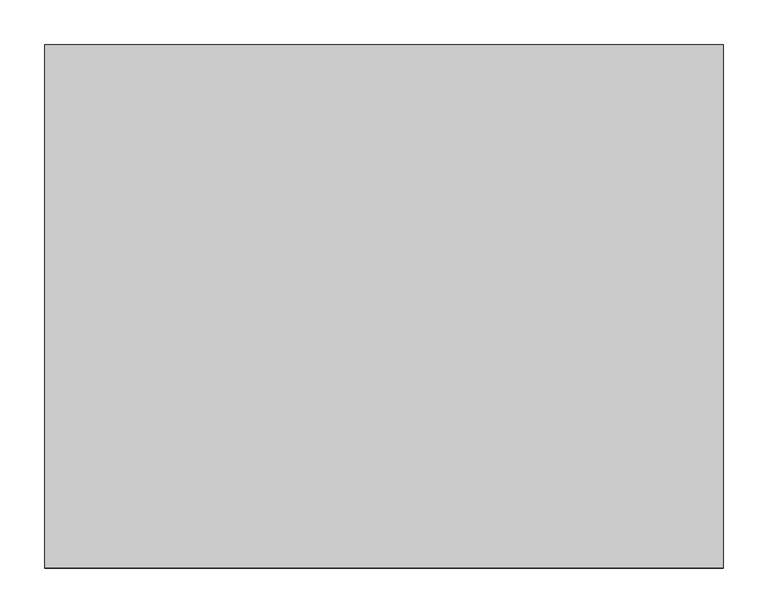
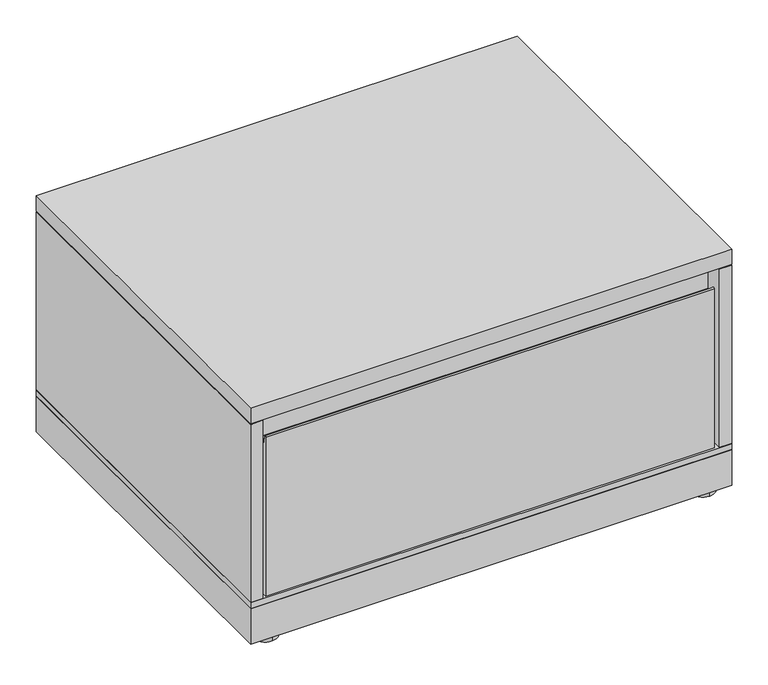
"""IFC4 building model written with IfcOpenShell, lengths in millimetres: furniture geometry, Steelcase - Universal Storage - Lateral File - 1 High - Flush Steel : Drawer - 23 1/8D x 30W."""

from ifc_helpers import new_model, si_unit, point, frame, frame_2d, origin, origin_with_axes, place, context, project, spatial, polyline, circle_curve, trimmed, segment, composite_curve, outline, extrude, source, transform, mapped, element, save


def furniture_a8a6dc52(model_context):
    return source(origin(), model_context, "Body", "SweptSolid", [
        extrude(outline(polyline([(762.0, 587.502), (762.0, 0.0), (0.0, 0.0), (0.0, 587.502), (762.0, 587.502)])), frame((0.0, 0.0, 6.3500002), z_axis=(0.0, 0.0, 1.0), x_axis=(1.0, 0.0, 0.0)), (0.0, 0.0, 1.0), 59.6899998),
        extrude(outline(composite_curve([segment(trimmed(circle_curve(frame_2d((727.3290058, 565.1653666)), 20.32), [point((727.3290058, 544.8453666))], [point((727.3290058, 585.4853666))], False, "CARTESIAN"), True, "CONTINUOUS"), segment(trimmed(circle_curve(frame_2d((727.3290058, 565.1653666)), 20.32), [point((727.3290058, 585.4853666))], [point((727.3290058, 544.8453666))], False, "CARTESIAN"), True, "CONTINUOUS")], self_intersect=False)), origin_with_axes(), (0.0, 0.0, 1.0), 6.3500002),
        extrude(outline(composite_curve([segment(trimmed(circle_curve(frame_2d((727.3290058, 20.7491455)), 20.32), [point((727.3290058, 0.4291455))], [point((727.3290058, 41.0691455))], False, "CARTESIAN"), True, "CONTINUOUS"), segment(trimmed(circle_curve(frame_2d((727.3290058, 20.7491455)), 20.32), [point((727.3290058, 41.0691455))], [point((727.3290058, 0.4291455))], False, "CARTESIAN"), True, "CONTINUOUS")], self_intersect=False)), origin_with_axes(), (0.0, 0.0, 1.0), 6.3500002),
        extrude(outline(composite_curve([segment(trimmed(circle_curve(frame_2d((34.29, 565.1653666)), 20.32), [point((34.29, 585.4853666))], [point((34.29, 544.8453666))], False, "CARTESIAN"), True, "CONTINUOUS"), segment(trimmed(circle_curve(frame_2d((34.29, 565.1653666)), 20.32), [point((34.29, 544.8453666))], [point((34.29, 585.4853666))], False, "CARTESIAN"), True, "CONTINUOUS")], self_intersect=False)), origin_with_axes(), (0.0, 0.0, 1.0), 6.3500002),
        extrude(outline(composite_curve([segment(trimmed(circle_curve(frame_2d((34.29, 20.7491455)), 20.32), [point((34.29, 41.0691455))], [point((34.29, 0.4291455))], False, "CARTESIAN"), True, "CONTINUOUS"), segment(trimmed(circle_curve(frame_2d((34.29, 20.7491455)), 20.32), [point((34.29, 0.4291455))], [point((34.29, 41.0691455))], False, "CARTESIAN"), True, "CONTINUOUS")], self_intersect=False)), origin_with_axes(), (0.0, 0.0, 1.0), 6.3500002),
        extrude(outline(composite_curve([segment(polyline([(25.4254103, 76.2), (3.2004224, 76.2), (3.2004224, 342.8171562)]), True, "CONTINUOUS"), segment(trimmed(circle_curve(frame_2d((4.3477111, 342.8171562)), 1.1472887), [point((3.2004224, 342.8171562))], [point((5.4949998, 342.8171562))], False, "CARTESIAN"), True, "CONTINUOUS"), segment(polyline([(5.4949998, 342.8171562), (6.7505036, 332.5918984)]), True, "CONTINUOUS"), segment(trimmed(circle_curve(frame_2d((10.035785, 332.9952802)), 3.3099532), [point((6.7505036, 332.5918984))], [point((10.035785, 329.685327))], True, "CARTESIAN"), True, "CONTINUOUS"), segment(polyline([(10.035785, 329.685327), (17.8753095, 329.685327)]), True, "CONTINUOUS"), segment(trimmed(circle_curve(frame_2d((17.8753095, 332.8666173)), 3.1812904), [point((17.8753095, 329.685327))], [point((21.0565999, 332.8666173))], True, "CARTESIAN"), True, "CONTINUOUS"), segment(polyline([(21.0565999, 332.8666173), (21.0565999, 373.5831925)]), True, "CONTINUOUS"), segment(trimmed(circle_curve(frame_2d((21.8270776, 373.5831925)), 0.7704777), [point((21.0565999, 373.5831925))], [point((21.5798734, 374.3129363))], False, "CARTESIAN"), True, "CONTINUOUS"), segment(trimmed(circle_curve(frame_2d((22.5148866, 371.5527885)), 2.9142178), [point((21.5798734, 374.3129363))], [point((25.4254103, 371.6994776))], False, "CARTESIAN"), True, "CONTINUOUS"), segment(polyline([(25.4254103, 371.6994776), (25.4254103, 76.2)]), True, "CONTINUOUS")], self_intersect=False)), frame((25.908, 0.0, 0.0), z_axis=(1.0, 0.0, 0.0), x_axis=(0.0, 1.0, 0.0)), (0.0, 0.0, 1.0), 710.184),
        extrude(outline(polyline([(762.0, 0.0), (0.0, 0.0), (0.0, 587.502), (762.0, 587.502), (762.0, 0.0)])), frame((0.0, 0.0, 376.3010136), z_axis=(0.0, 0.0, 1.0), x_axis=(1.0, 0.0, 0.0)), (0.0, 0.0, 1.0), 25.3999758),
        extrude(outline(polyline([(762.0, 0.0), (0.0, 0.0), (0.0, 587.502), (762.0, 587.502), (762.0, 0.0)])), frame((0.0, 0.0, 66.04), z_axis=(0.0, 0.0, 1.0), x_axis=(1.0, 0.0, 0.0)), (0.0, 0.0, 1.0), 10.16),
        extrude(outline(polyline([(0.0, 587.502), (762.0, 587.502), (762.0, 0.0), (742.4419641, 0.0), (742.4419641, 586.74), (19.558, 586.74), (19.558, 0.0), (0.0, 0.0), (0.0, 587.502)])), frame((0.0, 0.0, 76.2), z_axis=(0.0, 0.0, 1.0), x_axis=(1.0, 0.0, 0.0)), (0.0, 0.0, 1.0), 298.577),
    ])


if __name__ == "__main__":
    model = new_model("IFC4")
    model_context = context("Model", 3, world=origin())
    ifc_project = project(units=[si_unit("LENGTHUNIT", "METRE", prefix="MILLI")], contexts=[model_context])
    site = spatial("IfcSite", under=ifc_project)
    building = spatial("IfcBuilding", under=site)
    placement = place(None, origin())
    furniture_shape = furniture_a8a6dc52(model_context)
    element("IfcFurniture", 1, ObjectType="Steelcase - Universal Storage - Lateral File - 1 High - Flush Steel : Drawer - 23 1/8D x 30W", at=placement, inside=building, context=model_context, shape_type="MappedRepresentation", body=[
        mapped(furniture_shape, transform((0.0, 0.0, 0.0), x_axis=(1.0, 0.0, 0.0), y_axis=(0.0, 1.0, 0.0), z_axis=(0.0, 0.0, 1.0))),
    ])
    save(model, "model.ifc")
